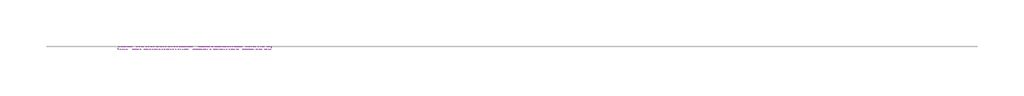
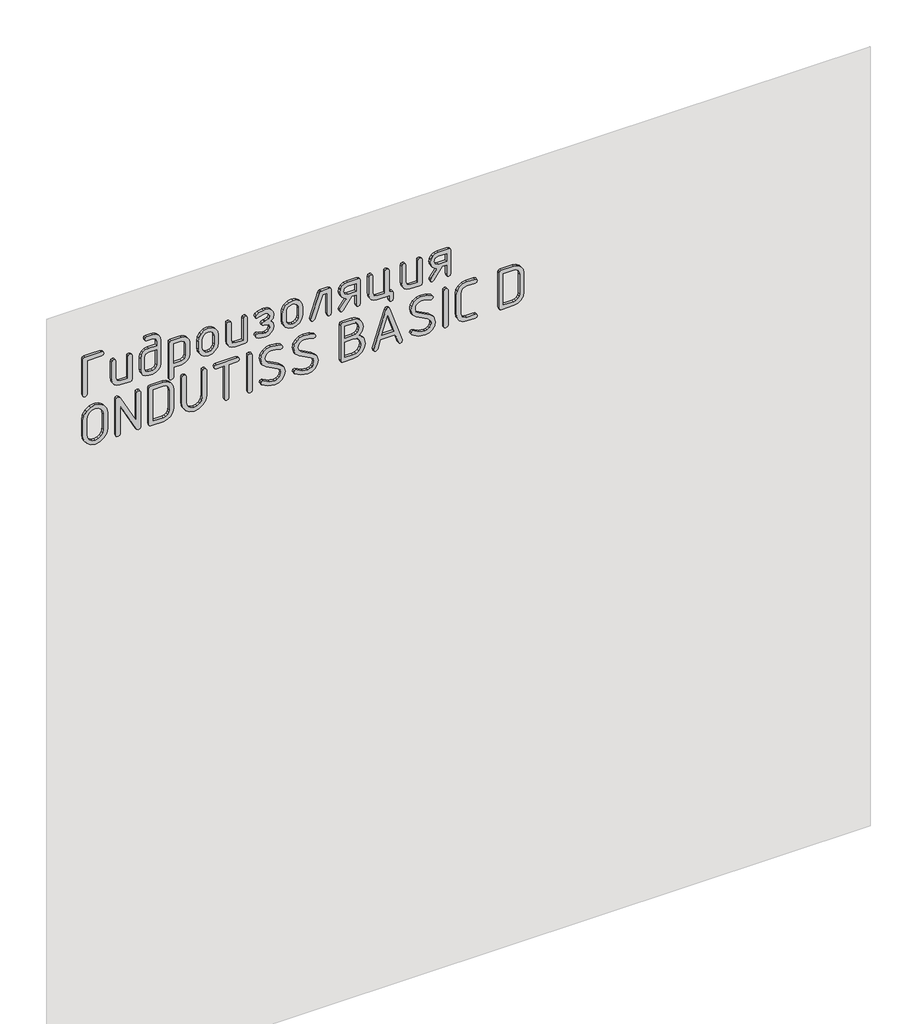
# One storey, part 35 of 42: 1 proxy.
"""IFC4 building model written with IfcOpenShell, lengths in millimetres."""

from ifc_helpers import new_model, si_unit, frame, origin, place, context, project, spatial, polyline, outline, extrude, element, save

model = new_model("IFC4")

# Units and contexts
model_context = context("Model", 3, world=origin())
ifc_project = project(units=[si_unit("LENGTHUNIT", "METRE", prefix="MILLI")], contexts=[model_context])

# Site, building, storey
site = spatial("IfcSite", under=ifc_project)
building = spatial("IfcBuilding", under=site)
storey = spatial("IfcBuildingStorey", under=building, Name="Этаж 01", Elevation=0.0)

# Proxy
placement = place(None, origin())
element("IfcBuildingElementProxy", 1, Name="150 мм GOST Common", ObjectType="150 мм GOST Common", at=placement, inside=storey, context=model_context, shape_type="SweptSolid", body=[
    extrude(outline(polyline([(2798.1927108, -4395.2767702), (2798.1927108, -4342.7803651), (2800.1103877, -4337.1471892), (2805.8634184, -4335.2694639), (2811.6164491, -4337.1471892), (2813.534126, -4342.7803651), (2813.534126, -4402.9474778), (2811.6464128, -4408.7005085), (2805.9832732, -4410.6181854), (2670.2277293, -4410.6181854), (2664.5645897, -4408.7005085), (2662.6768765, -4402.9474778), (2664.5546018, -4397.1944471), (2670.1877777, -4395.2767702), (2798.1927108, -4395.2767702)])), frame((0.0, -21838.3929597, 0.0), z_axis=(0.0, 1.0, 0.0), x_axis=(0.0, 0.0, 1.0)), (0.0, 0.0, 1.0), 10.0),
    extrude(outline(polyline([(2760.0389308, -4231.6350081), (2765.642143, -4233.552685), (2767.5098804, -4239.3057157), (2765.642143, -4245.0587464), (2760.0389308, -4246.9764233), (2678.0182917, -4246.9764233), (2678.0182917, -4275.9413348), (2682.4329437, -4286.168945), (2692.9202393, -4290.4437664), (2760.0389308, -4290.4437664), (2765.642143, -4292.3614433), (2767.5098804, -4298.114474), (2765.642143, -4303.8675047), (2760.0389308, -4305.7851816), (2692.6405781, -4305.7851816), (2681.004674, -4303.637783), (2671.3463742, -4297.1955871), (2664.8442509, -4287.6371663), (2662.6768765, -4276.1410928), (2662.6768765, -4239.0660061), (2664.5446139, -4233.4927576), (2670.1478261, -4231.6350081), (2760.0389308, -4231.6350081)])), frame((0.0, -21838.3929597, 0.0), z_axis=(0.0, 1.0, 0.0), x_axis=(0.0, 0.0, 1.0)), (0.0, 0.0, 1.0), 10.0),
    extrude(outline(polyline([(2783.3706664, -4126.8020043), (2794.9816007, -4128.934421), (2804.7247977, -4135.3316713), (2811.3317939, -4144.8151829), (2813.534126, -4156.2063834), (2813.534126, -4178.2596678), (2811.6164491, -4183.7729888), (2805.8634184, -4185.6107625), (2800.1103877, -4183.8029525), (2798.1927108, -4178.3795226), (2798.1927108, -4156.645851), (2793.7780587, -4146.3183619), (2782.8512956, -4142.1434195), (2767.5098804, -4142.1434195), (2767.5098804, -4171.5477986), (2765.342506, -4182.8890596), (2758.8403827, -4192.3825591), (2749.1820829, -4198.8097731), (2737.5461788, -4200.9521777), (2692.6405781, -4200.9521777), (2681.0795832, -4198.8047791), (2671.4063016, -4192.3625833), (2664.8592328, -4182.8041625), (2662.6768765, -4171.308089), (2662.6768765, -4156.446093), (2664.8642267, -4145.0249288), (2671.4262774, -4135.4515261), (2681.1544925, -4128.9643847), (2692.8403361, -4126.8020043), (2783.3706664, -4126.8020043)]), holes=[polyline([(2692.8403361, -4142.1434195), (2682.3530405, -4146.3782893), (2678.0182917, -4156.645851), (2678.0182917, -4171.108331), (2682.3929921, -4181.3359411), (2692.8403361, -4185.6107625), (2737.3464208, -4185.6107625), (2747.8337163, -4181.3758927), (2752.1684652, -4171.108331), (2752.1684652, -4142.1434195), (2692.8403361, -4142.1434195)])]), frame((0.0, -21838.3929597, 0.0), z_axis=(0.0, 1.0, 0.0), x_axis=(0.0, 0.0, 1.0)), (0.0, 0.0, 1.0), 10.0),
    extrude(outline(polyline([(2759.9590276, -4096.1191739), (2624.2034837, -4096.1191739), (2618.5403441, -4094.201497), (2616.6526309, -4088.4484663), (2618.5703078, -4082.6954356), (2624.3233385, -4080.7777587), (2662.6768765, -4080.7777587), (2662.6768765, -4051.3733796), (2664.8592328, -4039.982179), (2671.4063016, -4030.4986675), (2681.0795832, -4024.1014172), (2692.6405781, -4021.9690004), (2737.5461788, -4021.9690004), (2749.1820829, -4024.116399), (2758.8403827, -4030.5585949), (2765.342506, -4040.1170157), (2767.5098804, -4051.6130892), (2767.5098804, -4088.6881759), (2765.6221672, -4094.2614244), (2759.9590276, -4096.1191739)]), holes=[polyline([(2752.1684652, -4080.7777587), (2752.1684652, -4051.8128472), (2747.8936437, -4041.485358), (2737.3464208, -4037.3104156), (2692.8403361, -4037.3104156), (2682.3530405, -4041.5452854), (2678.0182917, -4051.8128472), (2678.0182917, -4080.7777587), (2752.1684652, -4080.7777587)])]), frame((0.0, -21838.3929597, 0.0), z_axis=(0.0, 1.0, 0.0), x_axis=(0.0, 0.0, 1.0)), (0.0, 0.0, 1.0), 10.0),
    extrude(outline(polyline([(2700.1115277, -3991.28617), (2685.718963, -3988.574455), (2673.6236155, -3980.4393101), (2665.4135613, -3968.4588234), (2662.6768765, -3954.2110833), (2665.4135613, -3939.9633432), (2673.6236155, -3927.9828565), (2685.718963, -3919.8477116), (2700.1115277, -3917.1359966), (2730.0752292, -3917.1359966), (2744.6176124, -3919.8177479), (2756.6829962, -3927.8630017), (2764.8031593, -3939.8135247), (2767.5098804, -3954.2110833), (2764.7731956, -3968.4588234), (2756.5631414, -3980.4393101), (2744.4677939, -3988.574455), (2730.0752292, -3991.28617), (2700.1115277, -3991.28617)]), holes=[polyline([(2700.5509953, -3932.4774118), (2691.8914855, -3934.0704819), (2684.6103061, -3938.8496923), (2679.6662953, -3945.8761803), (2678.0182917, -3954.2110833), (2679.6563074, -3962.6208955), (2684.5703545, -3969.6324017), (2691.841546, -3974.3666666), (2700.5509953, -3975.9447548), (2730.5546484, -3975.9447548), (2739.1841945, -3974.3516847), (2746.4553861, -3969.5724743), (2751.3993968, -3962.5459863), (2753.0474004, -3954.2110833), (2751.3993968, -3945.8761803), (2746.4553861, -3938.8496923), (2739.1841945, -3934.0704819), (2730.5546484, -3932.4774118), (2700.5509953, -3932.4774118)])]), frame((0.0, -21838.3929597, 0.0), z_axis=(0.0, 1.0, 0.0), x_axis=(0.0, 0.0, 1.0)), (0.0, 0.0, 1.0), 10.0),
    extrude(outline(polyline([(2760.0389308, -3812.3029927), (2765.642143, -3814.2206696), (2767.5098804, -3819.9737003), (2765.642143, -3825.726731), (2760.0389308, -3827.6444079), (2678.0182917, -3827.6444079), (2678.0182917, -3856.6093194), (2682.4329437, -3866.8369296), (2692.9202393, -3871.111751), (2760.0389308, -3871.111751), (2765.642143, -3873.0294279), (2767.5098804, -3878.7824586), (2765.642143, -3884.5354893), (2760.0389308, -3886.4531662), (2692.6405781, -3886.4531662), (2681.004674, -3884.3057676), (2671.3463742, -3877.8635717), (2664.8442509, -3868.3051509), (2662.6768765, -3856.8090774), (2662.6768765, -3819.7339907), (2664.5446139, -3814.1607422), (2670.1478261, -3812.3029927), (2760.0389308, -3812.3029927)])), frame((0.0, -21838.3929597, 0.0), z_axis=(0.0, 1.0, 0.0), x_axis=(0.0, 0.0, 1.0)), (0.0, 0.0, 1.0), 10.0),
    extrude(outline(polyline([(2693.3996585, -3730.4821117), (2682.5128469, -3734.8568121), (2678.0182917, -3745.5039141), (2678.0182917, -3753.0148152), (2681.8336697, -3768.0565934), (2685.6490477, -3777.1855345), (2682.9323388, -3781.3005495), (2677.6587273, -3783.0184684), (2671.7059386, -3779.9721587), (2666.6320851, -3770.8332298), (2662.6768765, -3753.0148152), (2662.6768765, -3745.5039141), (2664.8991844, -3733.8180704), (2671.566108, -3724.0099521), (2681.4591234, -3717.3580104), (2693.3597069, -3715.1406965), (2707.1829612, -3717.7874901), (2716.3718297, -3725.727871), (2725.0113637, -3717.7874901), (2738.3052592, -3715.1406965), (2749.6215505, -3717.3580104), (2759.0401407, -3724.0099521), (2765.3924455, -3733.8180704), (2767.5098804, -3745.5039141), (2767.5098804, -3753.0148152), (2763.434817, -3770.713375), (2758.2710724, -3779.942195), (2752.5280296, -3783.0184684), (2747.2743939, -3781.3005495), (2744.5377092, -3777.3053893), (2748.3530872, -3768.396182), (2752.1684652, -3753.0148152), (2752.1684652, -3745.5039141), (2748.1133776, -3734.8168605), (2738.1055012, -3730.4821117), (2728.0976249, -3734.5172235), (2724.0425373, -3746.1830913), (2724.0425373, -3748.5801874), (2724.0425373, -3750.8574287), (2721.7852718, -3758.2684509), (2716.3318781, -3760.4857648), (2710.8984602, -3758.3283783), (2708.7011221, -3753.0148152), (2708.7011221, -3743.3465275), (2704.7459135, -3734.4772719), (2693.3996585, -3730.4821117)])), frame((0.0, -21838.3929597, 0.0), z_axis=(0.0, 1.0, 0.0), x_axis=(0.0, 0.0, 1.0)), (0.0, 0.0, 1.0), 10.0),
    extrude(outline(polyline([(2700.1115277, -3684.4578661), (2685.718963, -3681.7461511), (2673.6236155, -3673.6110061), (2665.4135613, -3661.6305194), (2662.6768765, -3647.3827794), (2665.4135613, -3633.1350393), (2673.6236155, -3621.1545526), (2685.718963, -3613.0194076), (2700.1115277, -3610.3076926), (2730.0752292, -3610.3076926), (2744.6176124, -3612.9894439), (2756.6829962, -3621.0346978), (2764.8031593, -3632.9852208), (2767.5098804, -3647.3827794), (2764.7731956, -3661.6305194), (2756.5631414, -3673.6110061), (2744.4677939, -3681.7461511), (2730.0752292, -3684.4578661), (2700.1115277, -3684.4578661)]), holes=[polyline([(2700.5509953, -3625.6491078), (2691.8914855, -3627.242178), (2684.6103061, -3632.0213884), (2679.6662953, -3639.0478764), (2678.0182917, -3647.3827794), (2679.6563074, -3655.7925916), (2684.5703545, -3662.8040978), (2691.841546, -3667.5383626), (2700.5509953, -3669.1164509), (2730.5546484, -3669.1164509), (2739.1841945, -3667.5233807), (2746.4553861, -3662.7441704), (2751.3993968, -3655.7176823), (2753.0474004, -3647.3827794), (2751.3993968, -3639.0478764), (2746.4553861, -3632.0213884), (2739.1841945, -3627.242178), (2730.5546484, -3625.6491078), (2700.5509953, -3625.6491078)])]), frame((0.0, -21838.3929597, 0.0), z_axis=(0.0, 1.0, 0.0), x_axis=(0.0, 0.0, 1.0)), (0.0, 0.0, 1.0), 10.0),
    extrude(outline(polyline([(2767.5098804, -3543.3088559), (2765.9817316, -3547.9032902), (2761.3972852, -3550.8197571), (2672.5449222, -3580.4638459), (2670.2676809, -3580.8234103), (2664.5745776, -3578.945685), (2662.6768765, -3573.3125091), (2667.75073, -3566.2410755), (2752.1684652, -3537.9553413), (2752.1684652, -3520.816104), (2670.1478261, -3520.816104), (2664.5446139, -3518.8984271), (2662.6768765, -3513.1453964), (2664.5446139, -3507.3923657), (2670.1478261, -3505.4746888), (2760.0389308, -3505.4746888), (2765.642143, -3507.3923657), (2767.5098804, -3513.1453964), (2767.5098804, -3543.3088559)])), frame((0.0, -21838.3929597, 0.0), z_axis=(0.0, 1.0, 0.0), x_axis=(0.0, 0.0, 1.0)), (0.0, 0.0, 1.0), 10.0),
    extrude(outline(polyline([(2707.8221869, -3449.2627847), (2674.7023087, -3474.5121972), (2670.1478261, -3475.9904064), (2664.5446139, -3474.1126811), (2662.6768765, -3468.4795053), (2665.7531499, -3462.4468133), (2707.6623805, -3431.2046605), (2707.6623805, -3415.9831001), (2670.1877777, -3415.9831001), (2664.5546018, -3414.0654232), (2662.6768765, -3408.3123925), (2664.5446139, -3402.5593618), (2670.1478261, -3400.6416849), (2760.0389308, -3400.6416849), (2765.642143, -3402.5593618), (2767.5098804, -3408.3123925), (2767.5098804, -3445.9867533), (2765.342506, -3457.6026816), (2758.8403827, -3467.2809572), (2749.1820829, -3473.8130441), (2737.5461788, -3475.9904064), (2726.784216, -3474.0976993), (2717.5903536, -3468.4195778), (2710.9434058, -3459.8449653), (2707.8221869, -3449.2627847)]), holes=[polyline([(2737.1466628, -3460.9686041), (2747.7937647, -3456.5939036), (2752.1684652, -3445.9867533), (2752.1684652, -3415.9831001), (2722.164812, -3415.9831001), (2722.164812, -3445.9867533), (2726.5994398, -3456.5339762), (2737.1466628, -3460.9686041)])]), frame((0.0, -21838.3929597, 0.0), z_axis=(0.0, 1.0, 0.0), x_axis=(0.0, 0.0, 1.0)), (0.0, 0.0, 1.0), 10.0),
    extrude(outline(polyline([(2678.0182917, -3288.1379735), (2678.0182917, -3295.8086811), (2760.0389308, -3295.8086811), (2765.642143, -3297.726358), (2767.5098804, -3303.4793887), (2765.642143, -3309.2324194), (2760.0389308, -3311.1500963), (2678.0182917, -3311.1500963), (2678.0182917, -3340.1150078), (2682.4329437, -3350.3426179), (2692.9202393, -3354.6174393), (2760.0389308, -3354.6174393), (2765.642143, -3356.5351162), (2767.5098804, -3362.2881469), (2765.642143, -3368.0411776), (2760.0389308, -3369.9588545), (2692.6405781, -3369.9588545), (2681.0795832, -3367.8114559), (2671.4063016, -3361.3692601), (2664.8592328, -3351.8108393), (2662.6768765, -3340.3147658), (2662.6768765, -3295.8086811), (2647.3354613, -3295.8086811), (2641.5824306, -3293.8910042), (2639.6647537, -3288.1379735), (2641.5824306, -3282.3849428), (2647.3354613, -3280.4672659), (2670.3475841, -3280.4672659), (2676.1006148, -3282.3849428), (2678.0182917, -3288.1379735)])), frame((0.0, -21838.3929597, 0.0), z_axis=(0.0, 1.0, 0.0), x_axis=(0.0, 0.0, 1.0)), (0.0, 0.0, 1.0), 10.0),
    extrude(outline(polyline([(2760.0389308, -3175.634262), (2765.642143, -3177.5519389), (2767.5098804, -3183.3049696), (2765.642143, -3189.0580003), (2760.0389308, -3190.9756772), (2678.0182917, -3190.9756772), (2678.0182917, -3219.9405887), (2682.4329437, -3230.1681989), (2692.9202393, -3234.4430203), (2760.0389308, -3234.4430203), (2765.642143, -3236.3606972), (2767.5098804, -3242.1137279), (2765.642143, -3247.8667586), (2760.0389308, -3249.7844355), (2692.6405781, -3249.7844355), (2681.004674, -3247.6370369), (2671.3463742, -3241.194841), (2664.8442509, -3231.6364202), (2662.6768765, -3220.1403467), (2662.6768765, -3183.06526), (2664.5446139, -3177.4920115), (2670.1478261, -3175.634262), (2760.0389308, -3175.634262)])), frame((0.0, -21838.3929597, 0.0), z_axis=(0.0, 1.0, 0.0), x_axis=(0.0, 0.0, 1.0)), (0.0, 0.0, 1.0), 10.0),
    extrude(outline(polyline([(2707.8221869, -3119.4223579), (2674.7023087, -3144.6717704), (2670.1478261, -3146.1499797), (2664.5446139, -3144.2722544), (2662.6768765, -3138.6390785), (2665.7531499, -3132.6063866), (2707.6623805, -3101.3642338), (2707.6623805, -3086.1426734), (2670.1877777, -3086.1426734), (2664.5546018, -3084.2249965), (2662.6768765, -3078.4719658), (2664.5446139, -3072.7189351), (2670.1478261, -3070.8012582), (2760.0389308, -3070.8012582), (2765.642143, -3072.7189351), (2767.5098804, -3078.4719658), (2767.5098804, -3116.1463265), (2765.342506, -3127.7622548), (2758.8403827, -3137.4405304), (2749.1820829, -3143.9726174), (2737.5461788, -3146.1499797), (2726.784216, -3144.2572725), (2717.5903536, -3138.5791511), (2710.9434058, -3130.0045385), (2707.8221869, -3119.4223579)]), holes=[polyline([(2737.1466628, -3131.1281773), (2747.7937647, -3126.7534769), (2752.1684652, -3116.1463265), (2752.1684652, -3086.1426734), (2722.164812, -3086.1426734), (2722.164812, -3116.1463265), (2726.5994398, -3126.6935495), (2737.1466628, -3131.1281773)])]), frame((0.0, -21838.3929597, 0.0), z_axis=(0.0, 1.0, 0.0), x_axis=(0.0, 0.0, 1.0)), (0.0, 0.0, 1.0), 10.0),
    extrude(outline(polyline([(2511.9177961, -4321.1265968), (2572.2447152, -4321.1265968), (2589.6885835, -4324.3876463), (2604.3058759, -4334.1707949), (2614.2088792, -4348.618293), (2617.5098804, -4365.8723911), (2614.1938974, -4383.05158), (2604.2459485, -4397.5140599), (2589.6136742, -4407.3421541), (2572.2447152, -4410.6181854), (2511.9177961, -4410.6181854), (2494.5488371, -4407.3421541), (2479.9165628, -4397.5140599), (2469.9686139, -4383.05158), (2466.6526309, -4365.8723911), (2469.9686139, -4348.6932022), (2479.9165628, -4334.2307223), (2494.5488371, -4324.4026281), (2511.9177961, -4321.1265968)]), holes=[polyline([(2512.0376509, -4336.468012), (2500.3917589, -4338.6004287), (2490.7034954, -4344.997679), (2484.1714084, -4354.4811906), (2481.9940461, -4365.8723911), (2484.1714084, -4377.2635916), (2490.7034954, -4386.7471032), (2500.3917589, -4393.1443535), (2512.0376509, -4395.2767702), (2572.1248604, -4395.2767702), (2583.7707524, -4393.1443535), (2593.4590159, -4386.7471032), (2599.9911029, -4377.2635916), (2602.1684652, -4365.8723911), (2599.9911029, -4354.4811906), (2593.4590159, -4344.997679), (2583.7707524, -4338.6004287), (2572.1248604, -4336.468012), (2512.0376509, -4336.468012)])]), frame((0.0, -21838.3929597, 0.0), z_axis=(0.0, 1.0, 0.0), x_axis=(0.0, 0.0, 1.0)), (0.0, 0.0, 1.0), 10.0),
    extrude(outline(polyline([(2503.3282016, -4216.2935929), (2613.0353009, -4275.1023512), (2617.5098804, -4282.453446), (2615.6221672, -4288.4461863), (2609.9590276, -4290.4437664), (2474.2034837, -4290.4437664), (2468.5403441, -4288.5260895), (2466.6526309, -4282.7730588), (2468.5403441, -4277.0200281), (2474.2034837, -4275.1023512), (2580.9541645, -4275.1023512), (2470.4080815, -4216.2935929), (2466.6526309, -4209.1023046), (2468.5403441, -4202.9897094), (2474.2034837, -4200.9521777), (2609.9590276, -4200.9521777), (2615.6221672, -4202.8698546), (2617.5098804, -4208.6228853), (2615.6221672, -4214.375916), (2609.9590276, -4216.2935929), (2503.3282016, -4216.2935929)])), frame((0.0, -21838.3929597, 0.0), z_axis=(0.0, 1.0, 0.0), x_axis=(0.0, 0.0, 1.0)), (0.0, 0.0, 1.0), 10.0),
    extrude(outline(polyline([(2609.9590276, -4170.2693473), (2474.2034837, -4170.2693473), (2468.5403441, -4168.4016099), (2466.6526309, -4162.7983977), (2466.6526309, -4118.0526034), (2469.4092915, -4103.7299541), (2477.6792731, -4091.684546), (2489.8645117, -4083.5044555), (2504.3669433, -4080.7777587), (2579.795568, -4080.7777587), (2594.4478181, -4083.4744918), (2606.603093, -4091.5646912), (2614.7831835, -4103.5801356), (2617.5098804, -4118.0526034), (2617.5098804, -4162.7983977), (2615.6221672, -4168.4016099), (2609.9590276, -4170.2693473)]), holes=[polyline([(2602.1684652, -4154.9279321), (2602.1684652, -4118.1724582), (2600.5204616, -4109.6977246), (2595.5764508, -4102.5713576), (2588.2952713, -4097.7322198), (2579.6357616, -4096.1191739), (2504.5267497, -4096.1191739), (2495.8672399, -4097.7322198), (2488.5860605, -4102.5713576), (2483.6420497, -4109.6977246), (2481.9940461, -4118.1724582), (2481.9940461, -4154.9279321), (2602.1684652, -4154.9279321)])]), frame((0.0, -21838.3929597, 0.0), z_axis=(0.0, 1.0, 0.0), x_axis=(0.0, 0.0, 1.0)), (0.0, 0.0, 1.0), 10.0),
    extrude(outline(polyline([(2609.9590276, -3960.6033396), (2615.6221672, -3962.5210165), (2617.5098804, -3968.2740472), (2615.6321551, -3974.0270779), (2609.9989792, -3975.9447548), (2512.1175541, -3975.9447548), (2500.4367044, -3978.0771716), (2490.7234712, -3984.4744219), (2484.1764024, -3993.9579334), (2481.9940461, -4005.349134), (2484.1764024, -4016.7403345), (2490.7234712, -4026.223846), (2500.4367044, -4032.6210963), (2512.1175541, -4034.7535131), (2609.9989792, -4034.7535131), (2615.6321551, -4036.67119), (2617.5098804, -4042.4242207), (2615.6221672, -4048.1772514), (2609.9590276, -4050.0949283), (2511.9177961, -4050.0949283), (2494.5488371, -4046.8188969), (2479.9165628, -4036.9908028), (2469.9686139, -4022.5283229), (2466.6526309, -4005.349134), (2469.9686139, -3988.1699451), (2479.9165628, -3973.7074651), (2494.5488371, -3963.879371), (2511.9177961, -3960.6033396), (2609.9590276, -3960.6033396)])), frame((0.0, -21838.3929597, 0.0), z_axis=(0.0, 1.0, 0.0), x_axis=(0.0, 0.0, 1.0)), (0.0, 0.0, 1.0), 10.0),
    extrude(outline(polyline([(2609.8391728, -3931.6384281), (2604.0861421, -3929.7607028), (2602.1684652, -3924.1275269), (2602.1684652, -3894.1238738), (2474.1635321, -3894.1238738), (2468.5303562, -3892.2061969), (2466.6526309, -3886.4531662), (2468.5303562, -3880.7001355), (2474.1635321, -3878.7824586), (2602.1684652, -3878.7824586), (2602.1684652, -3848.7788054), (2604.0861421, -3843.1755932), (2609.8391728, -3841.3078558), (2615.5922035, -3843.1755932), (2617.5098804, -3848.7788054), (2617.5098804, -3924.1275269), (2615.5922035, -3929.7607028), (2609.8391728, -3931.6384281)])), frame((0.0, -21838.3929597, 0.0), z_axis=(0.0, 1.0, 0.0), x_axis=(0.0, 0.0, 1.0)), (0.0, 0.0, 1.0), 10.0),
    extrude(outline(polyline([(2466.6526309, -3802.0753826), (2468.5403441, -3796.3223519), (2474.2034837, -3794.404675), (2609.9590276, -3794.404675), (2615.6221672, -3796.3223519), (2617.5098804, -3802.0753826), (2615.6221672, -3807.8284133), (2609.9590276, -3809.7460902), (2474.2034837, -3809.7460902), (2468.5403441, -3807.8284133), (2466.6526309, -3802.0753826)])), frame((0.0, -21838.3929597, 0.0), z_axis=(0.0, 1.0, 0.0), x_axis=(0.0, 0.0, 1.0)), (0.0, 0.0, 1.0), 10.0),
    extrude(outline(polyline([(2504.2870401, -3674.2302559), (2524.1429863, -3679.3140973), (2537.8463858, -3694.5656214), (2559.5001542, -3736.2351424), (2567.6602689, -3745.3441076), (2579.59581, -3748.3804294), (2588.2603137, -3746.7673835), (2595.556475, -3741.9282457), (2600.5154676, -3734.8018786), (2602.1684652, -3726.3271451), (2600.4904979, -3709.567448), (2595.456596, -3692.6878961), (2594.657564, -3689.5716711), (2596.8748779, -3684.2780839), (2602.1684652, -3682.06077), (2609.1599955, -3686.4953978), (2615.4224092, -3703.4648408), (2617.5098804, -3726.6467579), (2614.7432319, -3740.8195887), (2606.4432866, -3752.8150572), (2594.2680359, -3760.9951478), (2579.8754712, -3763.7218446), (2560.0494887, -3758.6979306), (2546.4359803, -3743.6261888), (2524.7822119, -3701.9167162), (2516.5322061, -3692.6579324), (2504.5667013, -3689.5716711), (2495.9021976, -3691.1996989), (2488.6060363, -3696.0837823), (2483.6470437, -3703.2750707), (2481.9940461, -3711.8247135), (2485.1901743, -3731.6007565), (2495.657494, -3752.0559768), (2497.0158485, -3756.2908466), (2494.7985346, -3761.5245065), (2489.5049473, -3763.7218446), (2483.3923522, -3760.4458132), (2470.8375612, -3737.5235815), (2466.6526309, -3711.5051007), (2469.4192794, -3697.2573606), (2477.7192247, -3685.1969707), (2489.8944754, -3676.9719346), (2504.2870401, -3674.2302559)])), frame((0.0, -21838.3929597, 0.0), z_axis=(0.0, 1.0, 0.0), x_axis=(0.0, 0.0, 1.0)), (0.0, 0.0, 1.0), 10.0),
    extrude(outline(polyline([(2504.2870401, -3554.0558369), (2524.1429863, -3559.1396783), (2537.8463858, -3574.3912024), (2559.5001542, -3616.0607233), (2567.6602689, -3625.1696886), (2579.59581, -3628.2060104), (2588.2603137, -3626.5929644), (2595.556475, -3621.7538266), (2600.5154676, -3614.6274596), (2602.1684652, -3606.152726), (2600.4904979, -3589.3930289), (2595.456596, -3572.5134771), (2594.657564, -3569.3972521), (2596.8748779, -3564.1036648), (2602.1684652, -3561.8863509), (2609.1599955, -3566.3209787), (2615.4224092, -3583.2904217), (2617.5098804, -3606.4723388), (2614.7432319, -3620.6451697), (2606.4432866, -3632.6406382), (2594.2680359, -3640.8207287), (2579.8754712, -3643.5474256), (2560.0494887, -3638.5235116), (2546.4359803, -3623.4517697), (2524.7822119, -3581.7422971), (2516.5322061, -3572.4835134), (2504.5667013, -3569.3972521), (2495.9021976, -3571.0252799), (2488.6060363, -3575.9093632), (2483.6470437, -3583.1006516), (2481.9940461, -3591.6502945), (2485.1901743, -3611.4263375), (2495.657494, -3631.8815577), (2497.0158485, -3636.1164276), (2494.7985346, -3641.3500874), (2489.5049473, -3643.5474256), (2483.3923522, -3640.2713942), (2470.8375612, -3617.3491625), (2466.6526309, -3591.3306816), (2469.4192794, -3577.0829415), (2477.7192247, -3565.0225517), (2489.8944754, -3556.7975156), (2504.2870401, -3554.0558369)])), frame((0.0, -21838.3929597, 0.0), z_axis=(0.0, 1.0, 0.0), x_axis=(0.0, 0.0, 1.0)), (0.0, 0.0, 1.0), 10.0),
    extrude(outline(polyline([(2549.272544, -3404.5968935), (2562.4965243, -3393.9597795), (2579.1563424, -3390.4140748), (2594.0383141, -3393.105814), (2606.403335, -3401.1810316), (2614.733244, -3413.1715061), (2617.5098804, -3427.6090163), (2617.5098804, -3464.8039579), (2615.6221672, -3470.3772064), (2609.9590276, -3472.2349558), (2474.2034837, -3472.2349558), (2468.5403441, -3470.3672185), (2466.6526309, -3464.7640063), (2466.6526309, -3427.4891615), (2469.9236683, -3410.3099726), (2479.7367806, -3395.8474927), (2494.1643029, -3386.0193986), (2511.2785704, -3382.7433672), (2533.4616975, -3388.2067488), (2549.272544, -3404.5968935)]), holes=[polyline([(2540.8028044, -3456.8935406), (2540.8028044, -3427.4891615), (2538.6703876, -3416.097961), (2532.2731373, -3406.6144494), (2522.7896258, -3400.2171992), (2511.3984253, -3398.0847824), (2500.0072247, -3400.2171992), (2490.5237132, -3406.6144494), (2484.1264629, -3416.097961), (2481.9940461, -3427.4891615), (2481.9940461, -3456.8935406), (2540.8028044, -3456.8935406)]), polyline([(2602.1684652, -3456.8935406), (2602.1684652, -3427.6889195), (2600.4855039, -3419.2541375), (2595.4366202, -3412.1677221), (2588.0006283, -3407.358548), (2579.1563424, -3405.75549), (2570.3120565, -3407.358548), (2562.8760645, -3412.1677221), (2557.8271808, -3419.2541375), (2556.1442196, -3427.6889195), (2556.1442196, -3456.8935406), (2602.1684652, -3456.8935406)])]), frame((0.0, -21838.3929597, 0.0), z_axis=(0.0, 1.0, 0.0), x_axis=(0.0, 0.0, 1.0)), (0.0, 0.0, 1.0), 10.0),
    extrude(outline(polyline([(2474.2034837, -3247.3873394), (2476.6005798, -3247.7469038), (2611.6769465, -3292.5326497), (2616.0516469, -3295.3292619), (2617.5098804, -3299.8837445), (2615.9917195, -3304.4981545), (2611.4372369, -3307.3946457), (2476.6005798, -3352.0605368), (2474.2034837, -3352.4201012), (2468.5403441, -3350.5423759), (2466.6526309, -3344.9092), (2467.9610459, -3340.3846811), (2471.8862908, -3337.7578633), (2505.0061689, -3326.9309791), (2505.0061689, -3272.8365099), (2471.8862908, -3262.0495773), (2467.9610459, -3259.4227595), (2466.6526309, -3254.8982405), (2468.5403441, -3249.2650647), (2474.2034837, -3247.3873394)]), holes=[polyline([(2586.5074372, -3299.8837445), (2520.3475841, -3277.8704117), (2520.3475841, -3321.9370288), (2586.5074372, -3299.8837445)])]), frame((0.0, -21838.3929597, 0.0), z_axis=(0.0, 1.0, 0.0), x_axis=(0.0, 0.0, 1.0)), (0.0, 0.0, 1.0), 10.0),
    extrude(outline(polyline([(2504.2870401, -3127.0531139), (2524.1429863, -3132.1369553), (2537.8463858, -3147.3884794), (2559.5001542, -3189.0580003), (2567.6602689, -3198.1669656), (2579.59581, -3201.2032874), (2588.2603137, -3199.5902414), (2595.556475, -3194.7511036), (2600.5154676, -3187.6247366), (2602.1684652, -3179.150003), (2600.4904979, -3162.3903059), (2595.456596, -3145.5107541), (2594.657564, -3142.3945291), (2596.8748779, -3137.1009418), (2602.1684652, -3134.8836279), (2609.1599955, -3139.3182557), (2615.4224092, -3156.2876987), (2617.5098804, -3179.4696158), (2614.7432319, -3193.6424467), (2606.4432866, -3205.6379152), (2594.2680359, -3213.8180057), (2579.8754712, -3216.5447026), (2560.0494887, -3211.5207886), (2546.4359803, -3196.4490467), (2524.7822119, -3154.7395741), (2516.5322061, -3145.4807904), (2504.5667013, -3142.3945291), (2495.9021976, -3144.0225569), (2488.6060363, -3148.9066402), (2483.6470437, -3156.0979286), (2481.9940461, -3164.6475715), (2485.1901743, -3184.4236145), (2495.657494, -3204.8788347), (2497.0158485, -3209.1137046), (2494.7985346, -3214.3473644), (2489.5049473, -3216.5447026), (2483.3923522, -3213.2686712), (2470.8375612, -3190.3464395), (2466.6526309, -3164.3279586), (2469.4192794, -3150.0802186), (2477.7192247, -3138.0198287), (2489.8944754, -3129.7947926), (2504.2870401, -3127.0531139)])), frame((0.0, -21838.3929597, 0.0), z_axis=(0.0, 1.0, 0.0), x_axis=(0.0, 0.0, 1.0)), (0.0, 0.0, 1.0), 10.0),
    extrude(outline(polyline([(2466.6526309, -3088.6995759), (2468.5403441, -3082.9465452), (2474.2034837, -3081.0288683), (2609.9590276, -3081.0288683), (2615.6221672, -3082.9465452), (2617.5098804, -3088.6995759), (2615.6221672, -3094.4526066), (2609.9590276, -3096.3702835), (2474.2034837, -3096.3702835), (2468.5403441, -3094.4526066), (2466.6526309, -3088.6995759)])), frame((0.0, -21838.3929597, 0.0), z_axis=(0.0, 1.0, 0.0), x_axis=(0.0, 0.0, 1.0)), (0.0, 0.0, 1.0), 10.0),
    extrude(outline(polyline([(2617.5098804, -2982.5082176), (2617.5098804, -3012.5118707), (2614.7532198, -3026.9793447), (2606.4832382, -3039.2195167), (2594.2979996, -3047.5644076), (2579.795568, -3050.3460379), (2504.3669433, -3050.3460379), (2489.8645117, -3047.5644076), (2477.6792731, -3039.2195167), (2469.4092915, -3026.9793447), (2466.6526309, -3012.5118707), (2466.6526309, -2982.5082176), (2468.5703078, -2976.8750417), (2474.3233385, -2974.9973164), (2480.0763692, -2976.8750417), (2481.9940461, -2982.5082176), (2481.9940461, -3012.5118707), (2483.6420497, -3021.1414168), (2488.5860605, -3028.4126084), (2495.8672399, -3033.3566191), (2504.5267497, -3035.0046227), (2579.6357616, -3035.0046227), (2588.2952713, -3033.371601), (2595.5764508, -3028.4725358), (2600.5204616, -3021.2163261), (2602.1684652, -3012.5118707), (2602.1684652, -2982.5082176), (2604.0861421, -2976.8750417), (2609.8391728, -2974.9973164), (2615.5922035, -2976.8750417), (2617.5098804, -2982.5082176)])), frame((0.0, -21838.3929597, 0.0), z_axis=(0.0, 1.0, 0.0), x_axis=(0.0, 0.0, 1.0)), (0.0, 0.0, 1.0), 10.0),
    extrude(outline(polyline([(2609.9590276, -2894.3749834), (2474.2034837, -2894.3749834), (2468.5403441, -2892.507246), (2466.6526309, -2886.9040338), (2466.6526309, -2842.1582395), (2469.4092915, -2827.8355901), (2477.6792731, -2815.7901821), (2489.8645117, -2807.6100916), (2504.3669433, -2804.8833948), (2579.795568, -2804.8833948), (2594.4478181, -2807.5801279), (2606.603093, -2815.6703273), (2614.7831835, -2827.6857716), (2617.5098804, -2842.1582395), (2617.5098804, -2886.9040338), (2615.6221672, -2892.507246), (2609.9590276, -2894.3749834)]), holes=[polyline([(2602.1684652, -2879.0335682), (2602.1684652, -2842.2780943), (2600.5204616, -2833.8033607), (2595.5764508, -2826.6769937), (2588.2952713, -2821.8378559), (2579.6357616, -2820.22481), (2504.5267497, -2820.22481), (2495.8672399, -2821.8378559), (2488.5860605, -2826.6769937), (2483.6420497, -2833.8033607), (2481.9940461, -2842.2780943), (2481.9940461, -2879.0335682), (2602.1684652, -2879.0335682)])]), frame((0.0, -21838.3929597, 0.0), z_axis=(0.0, 1.0, 0.0), x_axis=(0.0, 0.0, 1.0)), (0.0, 0.0, 1.0), 10.0),
])

save(model, "model.ifc")
